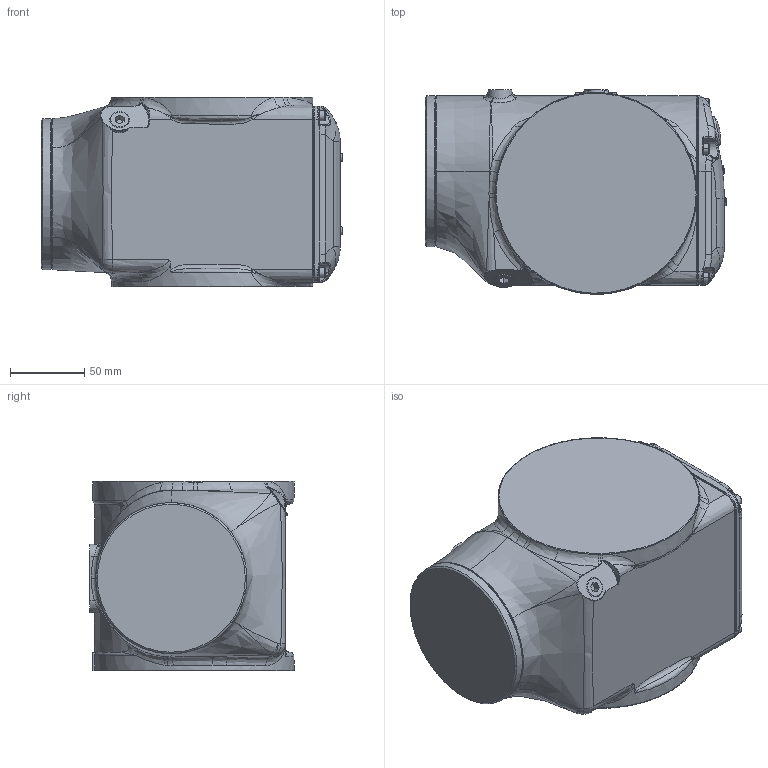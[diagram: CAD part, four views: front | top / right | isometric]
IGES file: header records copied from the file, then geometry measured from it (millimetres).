
Start section:  PTC IGES file: u-axis_view_yr-n1-06vx4-c00.igs
Global section: file name: u-axis_view_yr-n1-06vx4-c00.igs; native system: Creo Parametric by PTC Inc.; preprocessor: 2021072; author: iino20; organization: Unknown; date: 20250827.163359; units: millimetre
Bounding box: 203.39 x 138 x 128 mm (x, y, z)
Volume: 2788302.9 mm3; surface area: 120957.9 mm2
Topology: 1 solids, 1 shells, 768 faces, 1794 edges, 1067 vertices
Faces by surface type: bspline 503, revolution 265
